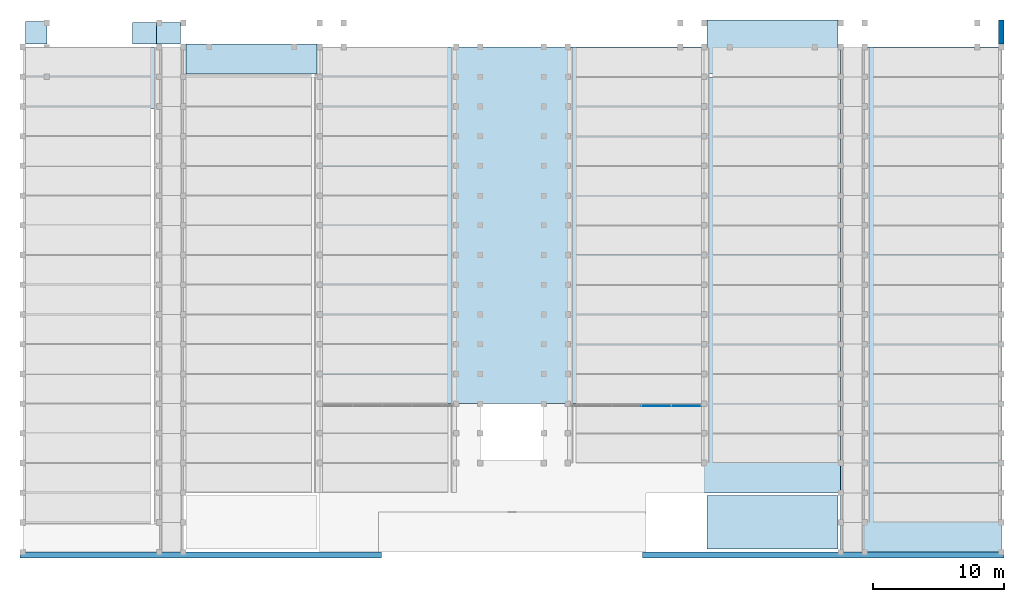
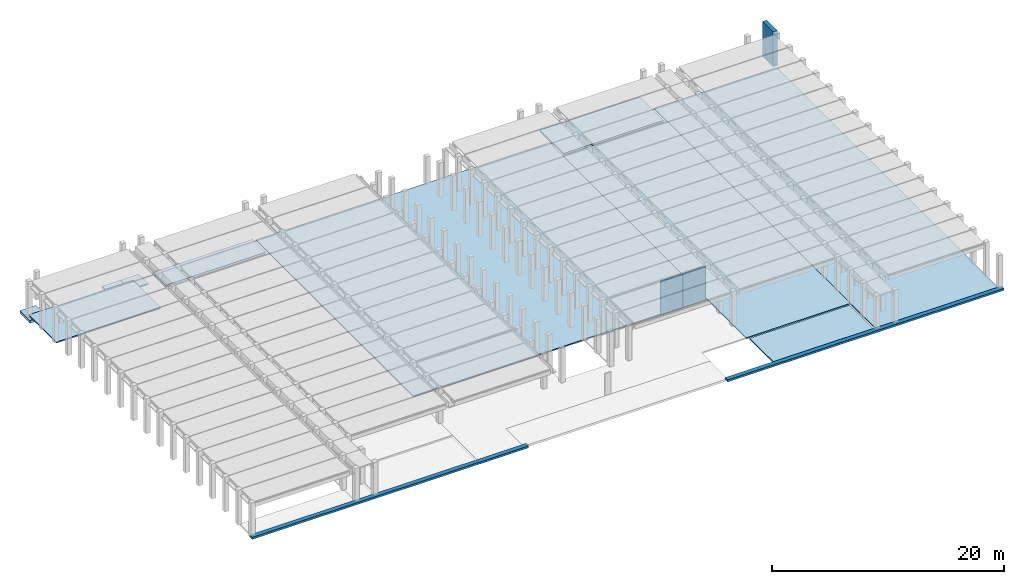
# One storey, part 24 of 25: 10 slabs, 3 walls, 2 plates, 1 element without a shape of its own.
"""IFC2X3 building model written with IfcOpenShell, lengths in millimetres."""

from ifc_helpers import new_model, entity, si_unit, converted_unit, derived_unit, direction, frame, frame_2d, origin, origin_2d_with_axis, place, context, subcontext, project, spatial, rectangle, extrude, source, transform, mapped, material, layer, layer_set, layer_usage, type_object, type_shapes, element, aggregate, save


model = new_model("IFC2X3")

# Units and contexts
model_context = context("Model", 3, precision=0.01, world=origin(), true_north=direction((6.12303176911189e-17, 1.0)))
body_context = subcontext(model_context, "Body", "Model", "MODEL_VIEW")
ifc_project = project(units=[si_unit("LENGTHUNIT", "METRE", prefix="MILLI"), si_unit("AREAUNIT", "SQUARE_METRE"), si_unit("VOLUMEUNIT", "CUBIC_METRE"), converted_unit("PLANEANGLEUNIT", "DEGREE", entity("IfcRatioMeasure", 0.0174532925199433), si_unit("PLANEANGLEUNIT", "RADIAN"), dimensions=[0, 0, 0, 0, 0, 0, 0]), si_unit("MASSUNIT", "GRAM", prefix="KILO"), derived_unit("MASSDENSITYUNIT", [(si_unit("MASSUNIT", "GRAM", prefix="KILO"), 1), (si_unit("LENGTHUNIT", "METRE"), -3)]), derived_unit("MOMENTOFINERTIAUNIT", [(si_unit("LENGTHUNIT", "METRE"), 4)]), si_unit("TIMEUNIT", "SECOND"), si_unit("FREQUENCYUNIT", "HERTZ"), si_unit("THERMODYNAMICTEMPERATUREUNIT", "DEGREE_CELSIUS"), derived_unit("THERMALTRANSMITTANCEUNIT", [(si_unit("MASSUNIT", "GRAM", prefix="KILO"), 1), (si_unit("THERMODYNAMICTEMPERATUREUNIT", "KELVIN"), -1), (si_unit("TIMEUNIT", "SECOND"), -3)]), derived_unit("VOLUMETRICFLOWRATEUNIT", [(si_unit("LENGTHUNIT", "METRE"), 3), (si_unit("TIMEUNIT", "SECOND"), -1)]), si_unit("ELECTRICCURRENTUNIT", "AMPERE"), si_unit("ELECTRICVOLTAGEUNIT", "VOLT"), si_unit("POWERUNIT", "WATT"), si_unit("FORCEUNIT", "NEWTON", prefix="KILO"), si_unit("ILLUMINANCEUNIT", "LUX"), si_unit("LUMINOUSFLUXUNIT", "LUMEN"), si_unit("LUMINOUSINTENSITYUNIT", "CANDELA"), derived_unit("USERDEFINED", [(si_unit("MASSUNIT", "GRAM", prefix="KILO"), -1), (si_unit("LENGTHUNIT", "METRE"), -2), (si_unit("TIMEUNIT", "SECOND"), 3), (si_unit("LUMINOUSFLUXUNIT", "LUMEN"), 1)]), derived_unit("LINEARVELOCITYUNIT", [(si_unit("LENGTHUNIT", "METRE"), 1), (si_unit("TIMEUNIT", "SECOND"), -1)]), si_unit("PRESSUREUNIT", "PASCAL"), derived_unit("USERDEFINED", [(si_unit("LENGTHUNIT", "METRE"), -2), (si_unit("MASSUNIT", "GRAM", prefix="KILO"), 1), (si_unit("TIMEUNIT", "SECOND"), -2)]), derived_unit("LINEARFORCEUNIT", [(si_unit("MASSUNIT", "GRAM", prefix="KILO"), 1), (si_unit("LENGTHUNIT", "METRE"), 1), (si_unit("TIMEUNIT", "SECOND"), -2), (si_unit("LENGTHUNIT", "METRE"), -1)]), derived_unit("PLANARFORCEUNIT", [(si_unit("MASSUNIT", "GRAM", prefix="KILO"), 1), (si_unit("LENGTHUNIT", "METRE"), 1), (si_unit("TIMEUNIT", "SECOND"), -2), (si_unit("LENGTHUNIT", "METRE"), -2)])], contexts=[model_context])

# Site, building, storey
site_placement = place(None, frame((10627.5135316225, 21939.0796949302, 0.0)))
site = spatial("IfcSite", under=ifc_project, at=site_placement, Name="Default", CompositionType="ELEMENT")
building_placement = place(site_placement, origin())
building = spatial("IfcBuilding", under=site, at=building_placement, CompositionType="ELEMENT")
storey_placement = place(building_placement, origin())
storey = spatial("IfcBuildingStorey", under=building, at=storey_placement, Name="RDC", CompositionType="ELEMENT", Elevation=0.0)

# Slabs
ifc_material_1 = material(Name="Polyurethane FoamRouge")
ifc_layer_1 = layer(ifc_material_1, 30.0)
ifc_material_2 = material(Name="Concrete, Cast-in-Place - C15")
ifc_layer_2 = layer(ifc_material_2, 100.0)
ifc_layer_set_1 = layer_set([ifc_layer_1, ifc_layer_2], Name="Floor:PlancherChauffant130Rouge")
ifc_layer_usage_1 = layer_usage(ifc_layer_set_1, "AXIS3", "POSITIVE", 0.0)
slab_type_1 = type_object("IfcSlabType", Name="Floor:PlancherChauffant130Rouge", PredefinedType="FLOOR", material=ifc_layer_set_1)
slab_1_placement = place(storey_placement, origin())
element("IfcSlab", 1, at=slab_1_placement, inside=storey, type_object=slab_type_1, material=ifc_layer_usage_1, Name="Floor:PlancherChauffant130Rouge", ObjectType="Floor:PlancherChauffant130Rouge", PredefinedType="FLOOR", context=body_context, shape_type="SweptSolid", body=[
    extrude(rectangle(XDim=38419.9999999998, YDim=12233.9250457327, at=origin_2d_with_axis()), frame((57689.4489912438, -2729.0796949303, -5.0), z_axis=(0.0, 0.0, -1.0), x_axis=(0.0, 1.0, 0.0)), (0.0, 0.0, 1.0), 130.0),
])
ifc_layer_usage_2 = layer_usage(ifc_layer_set_1, "AXIS3", "POSITIVE", 0.0)
slab_type_2 = type_object("IfcSlabType", Name="Floor:PlancherChauffant130Rouge", PredefinedType="FLOOR", material=ifc_layer_set_1)
slab_2_placement = place(storey_placement, origin())
element("IfcSlab", 2, at=slab_2_placement, inside=storey, type_object=slab_type_2, material=ifc_layer_usage_2, Name="Floor:PlancherChauffant130Rouge", ObjectType="Floor:PlancherChauffant130Rouge", PredefinedType="FLOOR", context=body_context, shape_type="SweptSolid", body=[
    extrude(rectangle(XDim=31640.0, YDim=10380.0, at=frame_2d((0.0, -4.09272615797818e-12), x_axis=(1.0, 0.0))), frame((46382.4864683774, -1599.07969493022, 0.0), z_axis=(0.0, 0.0, -1.0), x_axis=(0.0, 1.0, 0.0)), (0.0, 0.0, 1.0), 130.0),
])
ifc_layer_usage_3 = layer_usage(ifc_layer_set_1, "AXIS3", "POSITIVE", 0.0)
slab_type_3 = type_object("IfcSlabType", Name="Floor:PlancherChauffant130Rouge", PredefinedType="FLOOR", material=ifc_layer_set_1)
slab_3_placement = place(storey_placement, origin())
element("IfcSlab", 3, at=slab_3_placement, inside=storey, type_object=slab_type_3, material=ifc_layer_usage_3, Name="Floor:PlancherChauffant130Rouge", ObjectType="Floor:PlancherChauffant130Rouge", PredefinedType="FLOOR", context=body_context, shape_type="SweptSolid", body=[
    extrude(rectangle(XDim=27140.0, YDim=29229.9999999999, at=origin_2d_with_axis()), frame((26577.4864683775, 2930.92030506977, 0.0), z_axis=(0.0, 0.0, -1.0), x_axis=(0.0, 1.0, 0.0)), (0.0, 0.0, 1.0), 130.0),
])
ifc_layer_usage_4 = layer_usage(ifc_layer_set_1, "AXIS3", "POSITIVE", 0.0)
slab_type_4 = type_object("IfcSlabType", Name="Floor:PlancherChauffant130Rouge", PredefinedType="FLOOR", material=ifc_layer_set_1)
slab_4_placement = place(storey_placement, origin())
element("IfcSlab", 4, at=slab_4_placement, inside=storey, type_object=slab_type_4, material=ifc_layer_usage_4, Name="Floor:PlancherChauffant130Rouge", ObjectType="Floor:PlancherChauffant130Rouge", PredefinedType="FLOOR", context=body_context, shape_type="SweptSolid", body=[
    extrude(rectangle(XDim=4736.27997618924, YDim=10380.0, at=origin_2d_with_axis()), frame((-5437.51353162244, 14127.7803169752, 0.0), z_axis=(0.0, 0.0, -1.0), x_axis=(0.0, 1.0, 0.0)), (0.0, 0.0, 1.0), 130.0),
])
ifc_layer_usage_5 = layer_usage(ifc_layer_set_1, "AXIS3", "POSITIVE", 0.0)
slab_type_5 = type_object("IfcSlabType", Name="Floor:PlancherChauffant130Rouge", PredefinedType="FLOOR", material=ifc_layer_set_1)
slab_5_placement = place(storey_placement, origin())
element("IfcSlab", 5, at=slab_5_placement, inside=storey, type_object=slab_type_5, material=ifc_layer_usage_5, Name="Floor:PlancherChauffant130Rouge", ObjectType="Floor:PlancherChauffant130Rouge", PredefinedType="FLOOR", context=body_context, shape_type="SweptSolid", body=[
    extrude(rectangle(XDim=4088.28103574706, YDim=9955.01184763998, at=frame_2d((1.02318153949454e-12, 0.0), x_axis=(1.0, 0.0))), frame((46392.5675141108, -19664.9391770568, 0.0), z_axis=(0.0, 0.0, -1.0), x_axis=(0.0, 1.0, 0.0)), (0.0, 0.0, 1.0), 130.0),
])
ifc_layer_3 = layer(ifc_material_2, 300.0)
ifc_layer_set_2 = layer_set([ifc_layer_3], Name="Floor:Plancher S/SOL Fille 0-1")
ifc_layer_usage_6 = layer_usage(ifc_layer_set_2, "AXIS3", "POSITIVE", 0.0)
slab_type_6 = type_object("IfcSlabType", Name="Floor:Plancher S/SOL Fille 0-1", PredefinedType="FLOOR", material=ifc_layer_set_2)
slab_6_placement = place(storey_placement, origin())
element("IfcSlab", 6, at=slab_6_placement, inside=storey, type_object=slab_type_6, material=ifc_layer_usage_6, Name="Floor:Plancher S/SOL Fille 0-1", ObjectType="Floor:Plancher S/SOL Fille 0-1", PredefinedType="FLOOR", context=body_context, shape_type="SweptSolid", body=[
    extrude(rectangle(XDim=1719.99999999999, YDim=1615.0, at=frame_2d((-1.08002495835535e-12, 1.08002495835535e-12), x_axis=(1.0, 0.0))), frame((-9605.01353162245, 17555.9203050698, -800.0), z_axis=(0.0, 0.0, -1.0), x_axis=(0.0, 1.0, 0.0)), (0.0, 0.0, 1.0), 300.0),
])
ifc_layer_4 = layer(ifc_material_2, 140.0)
ifc_layer_set_3 = layer_set([ifc_layer_4], Name="Floor:Plancher S/SOL Fille 0-1 140mm")
ifc_layer_usage_7 = layer_usage(ifc_layer_set_3, "AXIS3", "POSITIVE", 0.0)
slab_type_7 = type_object("IfcSlabType", Name="Floor:Plancher S/SOL Fille 0-1 140mm", PredefinedType="FLOOR", material=ifc_layer_set_3)
slab_7_placement = place(storey_placement, origin())
element("IfcSlab", 7, at=slab_7_placement, inside=storey, type_object=slab_type_7, material=ifc_layer_usage_7, Name="Floor:Plancher S/SOL Fille 0-1 140mm", ObjectType="Floor:Plancher S/SOL Fille 0-1 140mm", PredefinedType="FLOOR", context=body_context, shape_type="SweptSolid", body=[
    extrude(rectangle(XDim=1650.00000000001, YDim=1832.0, at=origin_2d_with_axis()), frame((-1376.51353162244, 17520.9203050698, -1030.0), z_axis=(0.0, 0.0, -1.0), x_axis=(0.0, 1.0, 0.0)), (0.0, 0.0, 1.0), 140.0),
])
ifc_layer_usage_8 = layer_usage(ifc_layer_set_3, "AXIS3", "POSITIVE", 0.0)
slab_type_8 = type_object("IfcSlabType", Name="Floor:Plancher S/SOL Fille 0-1 140mm", PredefinedType="FLOOR", material=ifc_layer_set_3)
slab_8_placement = place(storey_placement, origin())
element("IfcSlab", 8, at=slab_8_placement, inside=storey, type_object=slab_type_8, material=ifc_layer_usage_8, Name="Floor:Plancher S/SOL Fille 0-1 140mm", ObjectType="Floor:Plancher S/SOL Fille 0-1 140mm", PredefinedType="FLOOR", context=body_context, shape_type="SweptSolid", body=[
    extrude(rectangle(XDim=1650.00000000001, YDim=1832.0, at=origin_2d_with_axis()), frame((455.486468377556, 17520.9203050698, -1030.0), z_axis=(0.0, 0.0, -1.0), x_axis=(0.0, 1.0, 0.0)), (0.0, 0.0, 1.0), 140.0),
])

# Curtain wall, plates
curtain_wall_type = type_object("IfcCurtainWallType", Name="Curtain Wall:Curtain_Wall-Empty 2", PredefinedType="NOTDEFINED")
curtain_wall_placement = place(storey_placement, origin())
curtain_wall = element("IfcCurtainWall", 9, at=curtain_wall_placement, inside=storey, type_object=curtain_wall_type, Name="Curtain Wall:Curtain_Wall-Empty 2", ObjectType="Curtain Wall:Curtain_Wall-Empty 2")
ifc_material_3 = material(Name="Glass")
plate_type = type_object("IfcPlateType", Name="System Panel:Glazed", PredefinedType="CURTAIN_PANEL", material=ifc_material_3)
shared_shape = source(origin(), body_context, "Body", "SweptSolid", [
    extrude(rectangle(XDim=25.0, YDim=2210.0000003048, at=origin_2d_with_axis()), frame((0.0, 37.0, 0.0), z_axis=(0.0, 0.0, 1.0), x_axis=(0.0, 1.0, 0.0)), (0.0, 0.0, 1.0), 3560.0),
])
type_shapes(plate_type, [shared_shape])
plate_1_placement = place(curtain_wall_placement, frame((39824.486468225, -10774.0796949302, 50.0), z_axis=(0.0, 0.0, 1.0), x_axis=(-1.0, 0.0, 0.0)))
plate_1 = element("IfcPlate", 10, at=plate_1_placement, type_object=plate_type, material=ifc_material_3, Name="System Panel:Glazed", ObjectType="System Panel:Glazed", context=body_context, shape_type="MappedRepresentation", body=[
    mapped(shared_shape, transform((0.0, 0.0, 0.0), scale=1.0)),
])
plate_2_placement = place(curtain_wall_placement, frame((37564.4864680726, -10774.0796949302, 50.0), z_axis=(0.0, 0.0, 1.0), x_axis=(-1.0, 0.0, 0.0)))
plate_2 = element("IfcPlate", 11, at=plate_2_placement, type_object=plate_type, material=ifc_material_3, Name="System Panel:Glazed", ObjectType="System Panel:Glazed", context=body_context, shape_type="MappedRepresentation", body=[
    mapped(shared_shape, transform((0.0, 0.0, 0.0), scale=1.0)),
])
aggregate(curtain_wall, [plate_1, plate_2])

# Slabs
ifc_layer_5 = layer(ifc_material_2, 211.0)
ifc_layer_set_4 = layer_set([ifc_layer_5], Name="Floor:Floor-Upper_160mmConc-CorusComFlor51")
ifc_layer_usage_9 = layer_usage(ifc_layer_set_4, "AXIS3", "POSITIVE", 0.0)
slab_type_9 = type_object("IfcSlabType", Name="Floor:Floor-Upper_160mmConc-CorusComFlor51", PredefinedType="FLOOR", material=ifc_layer_set_4)
slab_9_placement = place(storey_placement, origin())
element("IfcSlab", 12, at=slab_9_placement, inside=storey, type_object=slab_type_9, material=ifc_layer_usage_9, Name="Floor:Floor-Upper_160mmConc-CorusComFlor51", ObjectType="Floor:Floor-Upper_160mmConc-CorusComFlor51", PredefinedType="FLOOR", context=body_context, shape_type="SweptSolid", body=[
    extrude(rectangle(XDim=4089.99999999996, YDim=9952.00000000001, at=frame_2d((1.13686837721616e-12, 0.0), x_axis=(1.0, 0.0))), frame((46383.4864683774, 16480.9203050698, 0.0), z_axis=(0.0, 0.0, -1.0), x_axis=(0.0, 1.0, 0.0)), (0.0, 0.0, 1.0), 211.0),
])
ifc_layer_usage_10 = layer_usage(ifc_layer_set_4, "AXIS3", "POSITIVE", 0.0)
slab_type_10 = type_object("IfcSlabType", Name="Floor:Floor-Upper_160mmConc-CorusComFlor51", PredefinedType="FLOOR", material=ifc_layer_set_4)
slab_10_placement = place(storey_placement, origin())
element("IfcSlab", 13, at=slab_10_placement, inside=storey, type_object=slab_type_10, material=ifc_layer_usage_10, Name="Floor:Floor-Upper_160mmConc-CorusComFlor51", ObjectType="Floor:Floor-Upper_160mmConc-CorusComFlor51", PredefinedType="FLOOR", context=body_context, shape_type="SweptSolid", body=[
    extrude(rectangle(XDim=2260.00000000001, YDim=9953.99999999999, at=origin_2d_with_axis()), frame((6772.48646837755, 15565.9203050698, 0.0), z_axis=(0.0, 0.0, -1.0), x_axis=(0.0, 1.0, 0.0)), (0.0, 0.0, 1.0), 211.0),
])

# Walls
ifc_material_4 = material(Name="Concrete, Precast Smooth, Light Grey")
ifc_layer_6 = layer(ifc_material_4, 430.0)
ifc_layer_set_5 = layer_set([ifc_layer_6], Name="Basic Wall:Mur Facade Fille 0 430mm")
ifc_layer_usage_11 = layer_usage(ifc_layer_set_5, "AXIS2", "POSITIVE", -215.0)
wall_type_1 = type_object("IfcWallType", Name="Basic Wall:Mur Facade Fille 0 430mm", PredefinedType="STANDARD", material=ifc_layer_set_5)
wall_1_placement = place(storey_placement, frame((63782.4864683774, 16695.9203050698, 0.0), z_axis=(0.0, 0.0, 1.0), x_axis=(0.0, 1.0, 0.0)))
element("IfcWallStandardCase", 14, at=wall_1_placement, inside=storey, type_object=wall_type_1, material=ifc_layer_usage_11, Name="Basic Wall:Mur Facade Fille 0 430mm", ObjectType="Basic Wall:Mur Facade Fille 0 430mm", context=body_context, shape_type="SweptSolid", body=[
    extrude(rectangle(XDim=1843.33162842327, YDim=430.000000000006, at=frame_2d((921.665814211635, -1.08002495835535e-12), x_axis=(-1.0, 0.0))), origin(), (0.0, 0.0, 1.0), 3660.0),
])
ifc_layer_7 = layer(ifc_material_4, 430.0)
ifc_layer_set_6 = layer_set([ifc_layer_7], Name="Basic Wall:Mur S/SOL 43")
ifc_layer_usage_12 = layer_usage(ifc_layer_set_6, "AXIS2", "NEGATIVE", 215.0)
wall_type_2 = type_object("IfcWallType", Name="Basic Wall:Mur S/SOL 43", PredefinedType="STANDARD", material=ifc_layer_set_6)
wall_2_placement = place(storey_placement, frame((-10842.5135316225, -22154.0796949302, 0.0)))
element("IfcWallStandardCase", 15, at=wall_2_placement, inside=storey, type_object=wall_type_2, material=ifc_layer_usage_12, Name="Basic Wall:Mur S/SOL 43", ObjectType="Basic Wall:Mur S/SOL 43", context=body_context, shape_type="SweptSolid", body=[
    extrude(rectangle(XDim=27507.5884001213, YDim=429.999999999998, at=frame_2d((13753.7942000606, -6.53699316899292e-13), x_axis=(-1.0, 0.0))), origin(), (0.0, 0.0, 1.0), 210.0),
])
ifc_layer_usage_13 = layer_usage(ifc_layer_set_6, "AXIS2", "POSITIVE", -215.0)
wall_3_placement = place(storey_placement, frame((63997.4864683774, -22154.0796949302, 0.0), z_axis=(0.0, 0.0, 1.0), x_axis=(-1.0, 0.0, 0.0)))
element("IfcWallStandardCase", 16, at=wall_3_placement, inside=storey, type_object=wall_type_2, material=ifc_layer_usage_13, Name="Basic Wall:Mur S/SOL 43", ObjectType="Basic Wall:Mur S/SOL 43", context=body_context, shape_type="SweptSolid", body=[
    extrude(rectangle(XDim=27507.5884001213, YDim=429.999999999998, at=frame_2d((13753.7942000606, 6.3948846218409e-13), x_axis=(-1.0, 0.0))), origin(), (0.0, 0.0, 1.0), 210.0),
])

save(model, "model.ifc")
